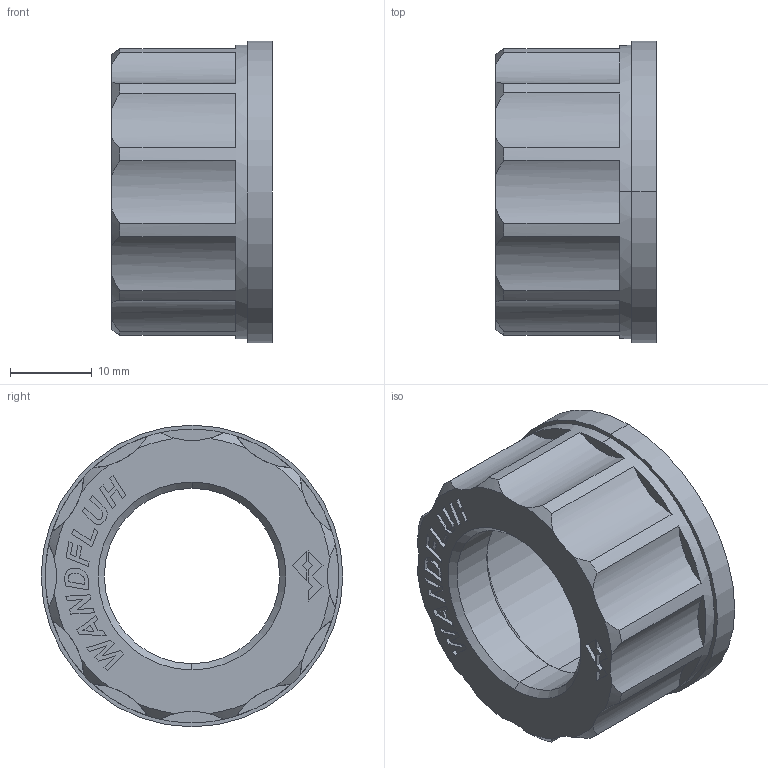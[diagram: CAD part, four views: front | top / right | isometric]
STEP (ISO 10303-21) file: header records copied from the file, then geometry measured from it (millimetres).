
FILE_DESCRIPTION (( 'STEP AP214' ), '1' );
FILE_NAME ('knurled_nut.STEP', '2014-07-14T11:29:57', ( '' ), ( '' ), 'SwSTEP 2.0', 'SolidWorks 2014', '' );
FILE_SCHEMA (( 'AUTOMOTIVE_DESIGN' ));
Length unit declared in the file: millimetre
Products named in the file (2): knurled_nut
Bounding box: 19.7 x 37 x 37 mm (x, y, z)
Volume: 9945.9 mm3; surface area: 5145.3 mm2
Topology: 1 solids, 1 shells, 176 faces, 473 edges, 314 vertices
Faces by surface type: plane 121, cylinder 21, cone 18, bspline 16
Entity records: 6354 total; most frequent: CARTESIAN_POINT 1933, ORIENTED_EDGE 946, DIRECTION 827, EDGE_CURVE 473, LINE 331, VECTOR 331, VERTEX_POINT 314, AXIS2_PLACEMENT_3D 248
